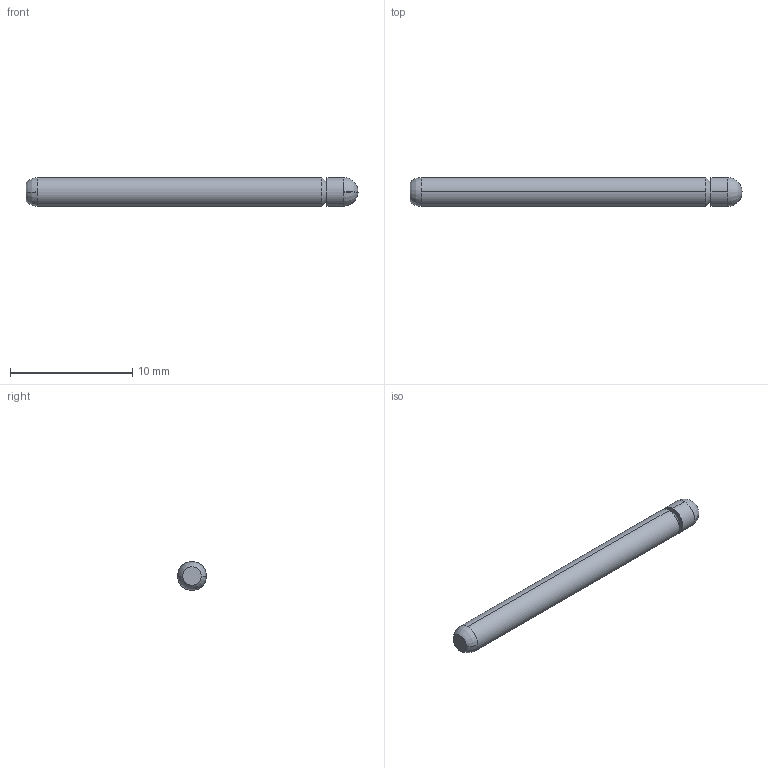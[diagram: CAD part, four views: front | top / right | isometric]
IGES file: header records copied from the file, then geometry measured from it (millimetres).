
Start section: SolidWorks IGES file using analytic representation for surfaces
Global section: file name: Z:\probe solid model mockups\Solidworks models\IGES Files\EPA-4 IGES files\EPA-4D Full.IGS; native system: SolidWorks 2006 by SolidWorks Corporation; preprocessor: SolidWorks 2006 by SolidWorks Corporation; author: tsakatani; date: 080103.104229; units: inch
Bounding box: 27.18 x 2.36 x 2.36 mm (x, y, z)
Surface area: 206.6 mm2 (no closed solid volume)
Topology: 0 solids, 0 shells, 12 faces, 112 edges, 110 vertices
Faces by surface type: revolution 10, bspline 2
